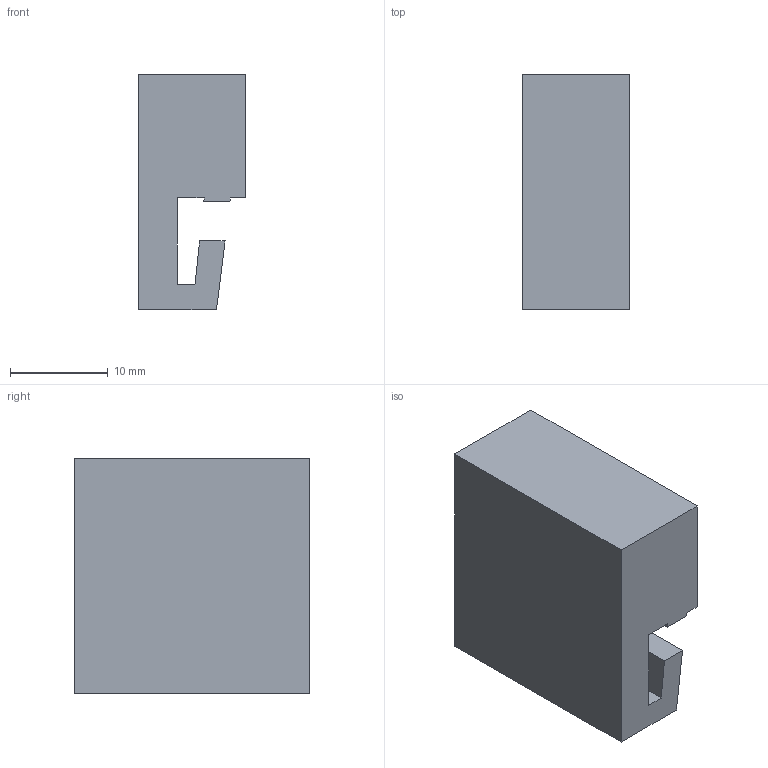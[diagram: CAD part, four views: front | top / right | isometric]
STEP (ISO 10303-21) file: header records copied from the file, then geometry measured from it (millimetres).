
FILE_DESCRIPTION(('Open CASCADE Model'),'2;1');
FILE_NAME('Open CASCADE Shape Model','2026-09-13T15:34:28',('Author'),( 'Open CASCADE'),'Open CASCADE STEP processor 7.9','build123d', 'Unknown');
FILE_SCHEMA(('AUTOMOTIVE_DESIGN { 1 0 10303 214 1 1 1 1 }'));
Length unit declared in the file: millimetre
Products named in the file (2): =>[0:1:1:2]; COMPOUND
Assembly tree (1 placements, depth 2):
  =>[0:1:1:2]
    COMPOUND
Bounding box: 11 x 24 x 24 mm (x, y, z)
Volume: 4976.7 mm3; surface area: 2528.6 mm2
Topology: 1 solids, 1 shells, 17 faces, 47 edges, 32 vertices
Faces by surface type: plane 13, bspline 4
Entity records: 1212 total; most frequent: CARTESIAN_POINT 348, DIRECTION 117, ORIENTED_EDGE 94, PCURVE 94, DEFINITIONAL_REPRESENTATION 94, LINE 87, VECTOR 87, B_SPLINE_CURVE_WITH_KNOTS 54
